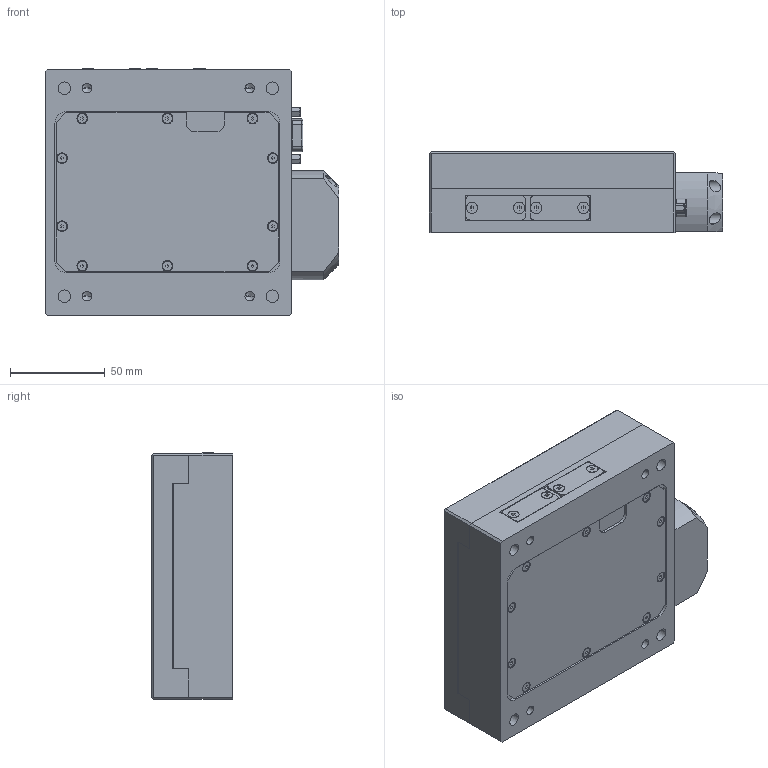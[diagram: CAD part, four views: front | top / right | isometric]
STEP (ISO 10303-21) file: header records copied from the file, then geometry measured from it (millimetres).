
FILE_DESCRIPTION((''),'2;1');
FILE_NAME('STM_MT130_568390_ASM','2026-04-14T12:23:03',('profile'),(''),'CREO PARAMETRIC BY PTC INC, 2025123','CREO PARAMETRIC BY PTC INC, 2025123','');
FILE_SCHEMA(('AP242_MANAGED_MODEL_BASED_3D_ENGINEERING_MIM_LF { 1 0 10303 442 1 1 4 }'));
Length unit declared in the file: millimetre
Products named in the file (5): STM_GRUND_568391; AL_ALUMINIUM; STM_SCHIE_568392; STM_MT130_568390_ASM
Assembly tree (2 placements, depth 2):
  AL_ALUMINIUM
  AL_ALUMINIUM
  STM_MT130_568390_ASM
    STM_GRUND_568391
    STM_SCHIE_568392
Bounding box: 155 x 43 x 130.2 mm (x, y, z)
Volume: 740621.5 mm3; surface area: 108429.8 mm2
Topology: 2 solids, 2 shells, 785 faces, 1756 edges, 1084 vertices
Faces by surface type: plane 455, cylinder 230, cone 84, torus 16
Entity records: 34525 total; most frequent: CARTESIAN_POINT 4613, DIRECTION 3867, ORIENTED_EDGE 3472, PRESENTATION_STYLE_ASSIGNMENT 2535, STYLED_ITEM 1750, CURVE_STYLE 1748, EDGE_CURVE 1736, AXIS2_PLACEMENT_3D 1376
